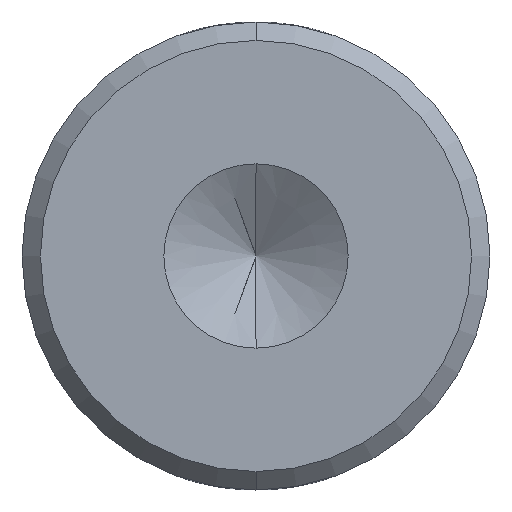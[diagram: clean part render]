
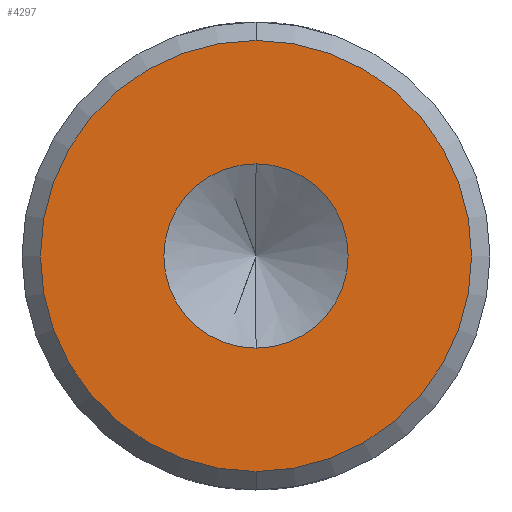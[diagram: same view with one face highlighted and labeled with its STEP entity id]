
A CAD part, front view. The second image highlights one B-rep face of the part: STEP entity #4297.
In plain terms, the highlighted planar face has unit normal (0, -1, 0).
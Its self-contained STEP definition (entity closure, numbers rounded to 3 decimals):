
#11 = ORIENTED_EDGE ( 'NONE', *, *, #22, .F. ) ;
#22 = EDGE_CURVE ( 'NONE', #3076, #3010, #1893, .T. ) ;
#71 = DIRECTION ( 'NONE',  ( 0., 0., 1. ) ) ;
#259 = DIRECTION ( 'NONE',  ( 0., 0., 1. ) ) ;
#306 = DIRECTION ( 'NONE',  ( 0., 0., 1. ) ) ;
#436 = EDGE_CURVE ( 'NONE', #2083, #723, #2498, .T. ) ;
#554 = CARTESIAN_POINT ( 'NONE',  ( 0., 0., 5.85 ) ) ;
#662 = FACE_BOUND ( 'NONE', #1538, .T. ) ;
#663 = CARTESIAN_POINT ( 'NONE',  ( 0., 0., 0. ) ) ;
#687 = DIRECTION ( 'NONE',  ( 0., 0., -1. ) ) ;
#723 = VERTEX_POINT ( 'NONE', #554 ) ;
#825 = CIRCLE ( 'NONE', #2275, 5.85 ) ;
#933 = ORIENTED_EDGE ( 'NONE', *, *, #1242, .T. ) ;
#1121 = AXIS2_PLACEMENT_3D ( 'NONE', #663, #2113, #306 ) ;
#1242 = EDGE_CURVE ( 'NONE', #723, #2083, #825, .T. ) ;
#1276 = AXIS2_PLACEMENT_3D ( 'NONE', #3978, #1406, #3910 ) ;
#1406 = DIRECTION ( 'NONE',  ( 0., -1., 0. ) ) ;
#1421 = FACE_OUTER_BOUND ( 'NONE', #1986, .T. ) ;
#1538 = EDGE_LOOP ( 'NONE', ( #11, #3464 ) ) ;
#1893 = CIRCLE ( 'NONE', #1276, 2.5 ) ;
#1986 = EDGE_LOOP ( 'NONE', ( #933, #4366 ) ) ;
#2083 = VERTEX_POINT ( 'NONE', #3071 ) ;
#2112 = CARTESIAN_POINT ( 'NONE',  ( 0., 0., 0. ) ) ;
#2113 = DIRECTION ( 'NONE',  ( 0., -1., 0. ) ) ;
#2119 = AXIS2_PLACEMENT_3D ( 'NONE', #2112, #4233, #259 ) ;
#2184 = CARTESIAN_POINT ( 'NONE',  ( 0., 0., 0. ) ) ;
#2275 = AXIS2_PLACEMENT_3D ( 'NONE', #2184, #2287, #71 ) ;
#2281 = AXIS2_PLACEMENT_3D ( 'NONE', #3970, #3947, #687 ) ;
#2287 = DIRECTION ( 'NONE',  ( 0., -1., 0. ) ) ;
#2498 = CIRCLE ( 'NONE', #1121, 5.85 ) ;
#3010 = VERTEX_POINT ( 'NONE', #4515 ) ;
#3071 = CARTESIAN_POINT ( 'NONE',  ( 0., 0., -5.85 ) ) ;
#3076 = VERTEX_POINT ( 'NONE', #3446 ) ;
#3446 = CARTESIAN_POINT ( 'NONE',  ( 0., 0., -2.5 ) ) ;
#3464 = ORIENTED_EDGE ( 'NONE', *, *, #4387, .F. ) ;
#3910 = DIRECTION ( 'NONE',  ( 0., 0., -1. ) ) ;
#3947 = DIRECTION ( 'NONE',  ( 0., -1., 0. ) ) ;
#3970 = CARTESIAN_POINT ( 'NONE',  ( 0., 0., 0. ) ) ;
#3978 = CARTESIAN_POINT ( 'NONE',  ( 0., 0., 0. ) ) ;
#4021 = CIRCLE ( 'NONE', #2281, 2.5 ) ;
#4233 = DIRECTION ( 'NONE',  ( 0., 1., 0. ) ) ;
#4256 = PLANE ( 'NONE',  #2119 ) ;
#4297 = ADVANCED_FACE ( 'NONE', ( #1421, #662 ), #4256, .F. ) ;
#4366 = ORIENTED_EDGE ( 'NONE', *, *, #436, .T. ) ;
#4387 = EDGE_CURVE ( 'NONE', #3010, #3076, #4021, .T. ) ;
#4515 = CARTESIAN_POINT ( 'NONE',  ( 0., 0., 2.5 ) ) ;
